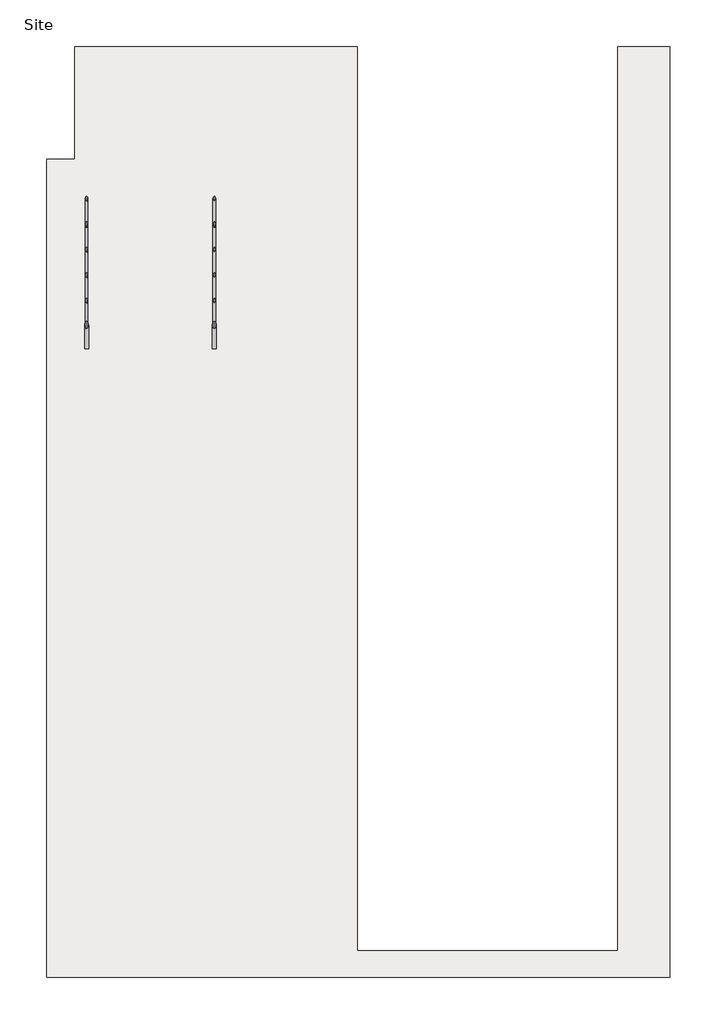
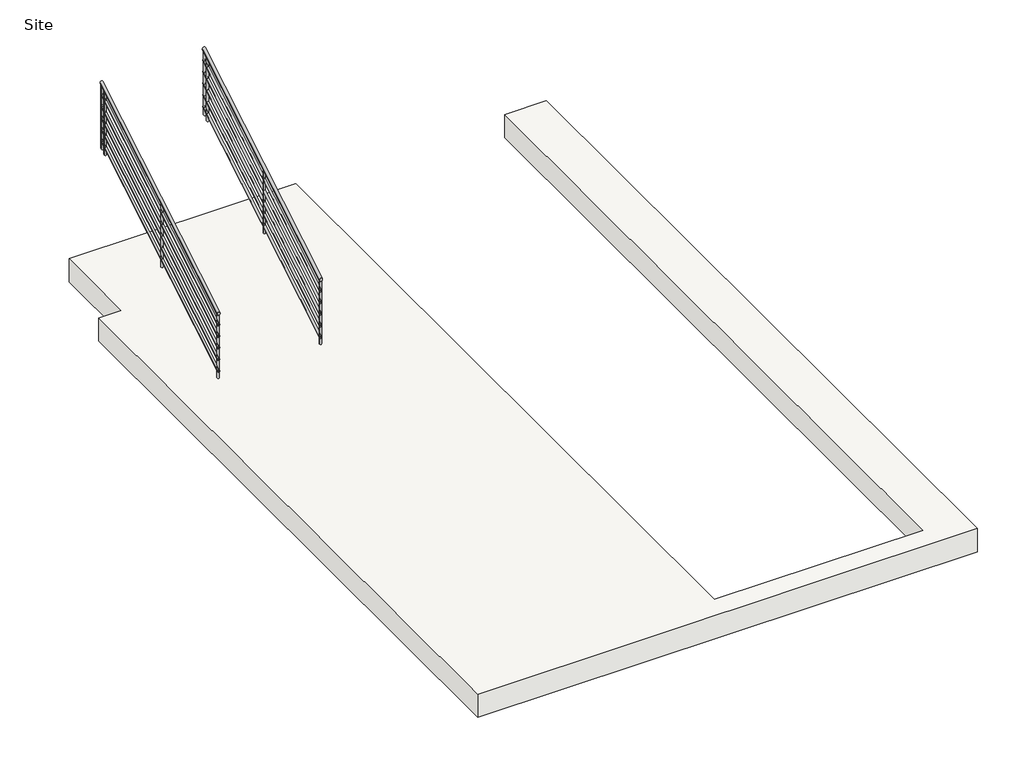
# One storey: 2 railings, 1 slab.
"""IFC4 building model written with IfcOpenShell, lengths in millimetres."""

from ifc_helpers import new_model, si_unit, frame, origin, place, context, project, spatial, polyline, outline, extrude, transform, mapped, element, save
from components import handrail_pipe_723eb138, handrail_pipe_0a2d2162

model = new_model("IFC4")

# Units and contexts
model_context = context("Model", 3, world=origin())
ifc_project = project(units=[si_unit("LENGTHUNIT", "METRE", prefix="MILLI")], contexts=[model_context])

# Site, building, storey
site = spatial("IfcSite", under=ifc_project)
building = spatial("IfcBuilding", under=site)
storey = spatial("IfcBuildingStorey", under=building, Name="Site", Elevation=-1524.0)

# Railings
placement = place(None, origin())
handrail_pipe_shape = handrail_pipe_723eb138(model_context)
element("IfcRailing", 1, ObjectType="Handrail - Pipe", at=placement, inside=storey, context=model_context, shape_type="MappedRepresentation", body=[
    mapped(handrail_pipe_shape, transform((0.0, 0.0, 0.0), x_axis=(1.0, 0.0, 0.0), y_axis=(0.0, 1.0, 0.0), z_axis=(0.0, 0.0, 1.0))),
])
handrail_pipe_2_shape = handrail_pipe_0a2d2162(model_context)
element("IfcRailing", 2, ObjectType="Handrail - Pipe", at=placement, inside=storey, context=model_context, shape_type="MappedRepresentation", body=[
    mapped(handrail_pipe_2_shape, transform((0.0, 0.0, 0.0), x_axis=(1.0, 0.0, 0.0), y_axis=(0.0, 1.0, 0.0), z_axis=(0.0, 0.0, 1.0))),
])

# Slab
element("IfcSlab", 3, ObjectType="Generic - 12\"", at=placement, inside=storey, context=model_context, shape_type="SweptSolid", body=[
    extrude(outline(polyline([(-8063.4266822, -15042.8878347), (-8063.4266822, -6901.7671527), (-7783.3266822, -6901.7671527), (-7783.3266822, -5780.2671527), (-4970.1266822, -5780.2671527), (-4970.1266822, -14776.7671527), (-2379.3266822, -14776.7671527), (-2379.3266822, -5780.2671527), (-1860.2266822, -5780.2671527), (-1860.2266822, -15042.8878347), (-8063.4266822, -15042.8878347)])), frame((0.0, 0.0, -1828.8), z_axis=(0.0, 0.0, 1.0), x_axis=(1.0, 0.0, 0.0)), (0.0, 0.0, 1.0), 304.8),
])

save(model, "model.ifc")
